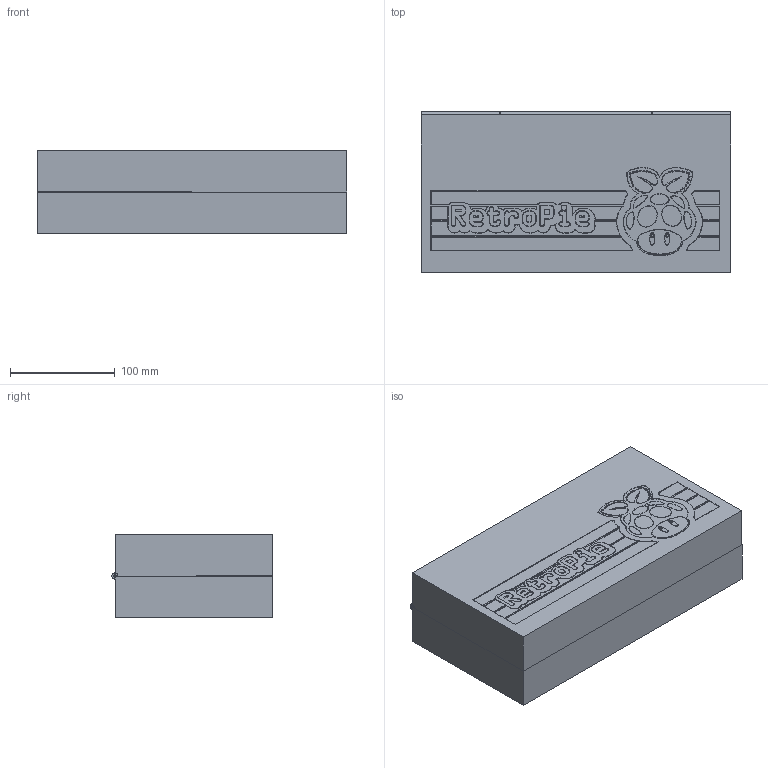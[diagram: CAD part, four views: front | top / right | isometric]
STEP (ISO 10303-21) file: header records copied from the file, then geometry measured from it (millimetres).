
FILE_DESCRIPTION(/* description */ (''),/* implementation_level */ '2;1');
FILE_NAME(/* name */ 'C:/Users/recon_000/Desktop/Gamepad Zero Project/Controller Case/Files For Posting/Gamepad Zero Case.step',/* time_stamp */ '2018-07-07T23:55:14-05:00',/* author */ ('jvanvleetTZH6T'),/* organization */ (''),/* preprocessor_version */ 'ST-DEVELOPER v17',/* originating_system */ 'Autodesk Translation Framework v7.1.0.215',/* authorisation */ '');
FILE_SCHEMA (('AUTOMOTIVE_DESIGN { 1 0 10303 214 3 1 1 }'));
Products named in the file (6): Gamepad Zero Case; Lid; Component2; Hinge Pin; Base; Roll Top Tray Final
Assembly tree (5 placements, depth 2):
  Gamepad Zero Case
    Lid
    Component2
    Hinge Pin
    Base
    Roll Top Tray Final
Bounding box: 295 x 152.89 x 80 mm (x, y, z)
Volume: 1320931.5 mm3; surface area: 754557.6 mm2
Topology: 68 solids, 68 shells, 1560 faces, 4168 edges, 2776 vertices
Faces by surface type: plane 825, bspline 610, cylinder 125
Full cylindrical faces by diameter (mm): 1.75 x1, 2.5 x3
Entity records: 55649 total; most frequent: CARTESIAN_POINT 21290, ORIENTED_EDGE 8336, DIRECTION 5134, EDGE_CURVE 4168, VERTEX_POINT 2776, LINE 2674, VECTOR 2674, EDGE_LOOP 1640
